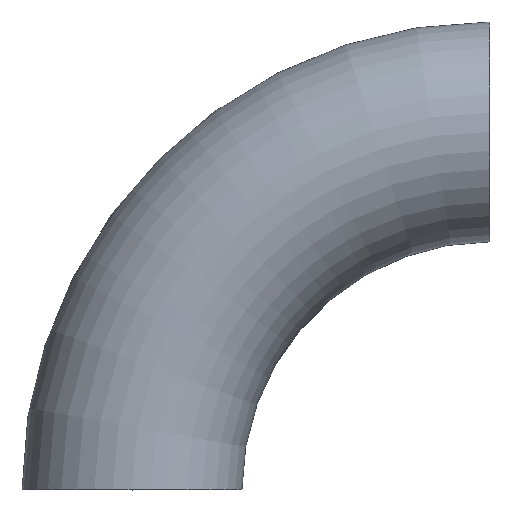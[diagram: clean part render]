
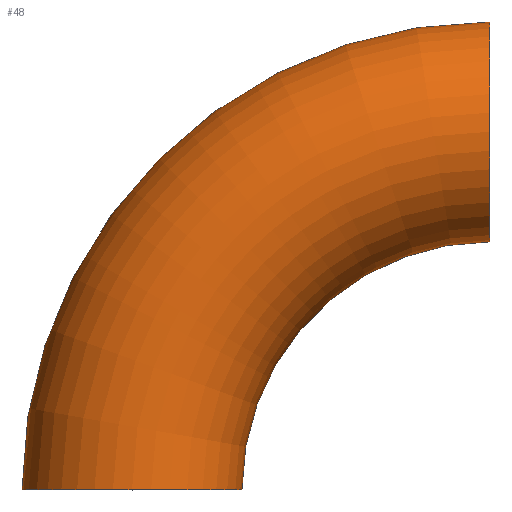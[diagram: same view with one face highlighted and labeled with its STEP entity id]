
A CAD part, top view. The second image highlights one B-rep face of the part: STEP entity #48.
In plain terms, the highlighted toroidal (fillet/blend) face has major radius 28 mm and minor radius 8.6 mm.
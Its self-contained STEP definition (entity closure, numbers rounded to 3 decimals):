
#17 = VERTEX_POINT ( 'NONE', #62 ) ;
#21 = DIRECTION ( 'NONE',  ( 1., 0., 0. ) ) ;
#23 = CARTESIAN_POINT ( 'NONE',  ( 28., 0., 0. ) ) ;
#29 = VERTEX_POINT ( 'NONE', #217 ) ;
#33 = DIRECTION ( 'NONE',  ( 1., 0., 0. ) ) ;
#44 = CIRCLE ( 'NONE', #143, 36.6 ) ;
#46 = ORIENTED_EDGE ( 'NONE', *, *, #100, .T. ) ;
#48 = ADVANCED_FACE ( 'NONE', ( #130 ), #225, .T. ) ;
#59 = AXIS2_PLACEMENT_3D ( 'NONE', #23, #85, #21 ) ;
#62 = CARTESIAN_POINT ( 'NONE',  ( 8.6, 0., 0. ) ) ;
#68 = CARTESIAN_POINT ( 'NONE',  ( 28., 28., 0. ) ) ;
#75 = CARTESIAN_POINT ( 'NONE',  ( 28., 19.4, 0. ) ) ;
#81 = ORIENTED_EDGE ( 'NONE', *, *, #139, .F. ) ;
#85 = DIRECTION ( 'NONE',  ( 0., 0., 1. ) ) ;
#86 = ORIENTED_EDGE ( 'NONE', *, *, #157, .F. ) ;
#98 = VERTEX_POINT ( 'NONE', #141 ) ;
#100 = EDGE_CURVE ( 'NONE', #29, #98, #44, .T. ) ;
#111 = CARTESIAN_POINT ( 'NONE',  ( 28., 0., 0. ) ) ;
#113 = ORIENTED_EDGE ( 'NONE', *, *, #223, .T. ) ;
#114 = AXIS2_PLACEMENT_3D ( 'NONE', #68, #33, #180 ) ;
#115 = CARTESIAN_POINT ( 'NONE',  ( 0., 0., 0. ) ) ;
#118 = DIRECTION ( 'NONE',  ( 0., 0., 1. ) ) ;
#130 = FACE_OUTER_BOUND ( 'NONE', #221, .T. ) ;
#133 = DIRECTION ( 'NONE',  ( 0., 0., 1. ) ) ;
#138 = DIRECTION ( 'NONE',  ( 0., 1., 0. ) ) ;
#139 = EDGE_CURVE ( 'NONE', #29, #242, #235, .T. ) ;
#141 = CARTESIAN_POINT ( 'NONE',  ( -8.6, 0., 0. ) ) ;
#142 = DIRECTION ( 'NONE',  ( 0., 0., 1. ) ) ;
#143 = AXIS2_PLACEMENT_3D ( 'NONE', #111, #133, #163 ) ;
#145 = CIRCLE ( 'NONE', #234, 8.6 ) ;
#157 = EDGE_CURVE ( 'NONE', #242, #17, #241, .T. ) ;
#163 = DIRECTION ( 'NONE',  ( 1., 0., 0. ) ) ;
#180 = DIRECTION ( 'NONE',  ( 0., 0., 1. ) ) ;
#198 = CARTESIAN_POINT ( 'NONE',  ( 28., 0., 0. ) ) ;
#199 = AXIS2_PLACEMENT_3D ( 'NONE', #198, #142, #222 ) ;
#217 = CARTESIAN_POINT ( 'NONE',  ( 28., 36.6, 0. ) ) ;
#221 = EDGE_LOOP ( 'NONE', ( #81, #46, #113, #86 ) ) ;
#222 = DIRECTION ( 'NONE',  ( 1., 0., 0. ) ) ;
#223 = EDGE_CURVE ( 'NONE', #98, #17, #145, .T. ) ;
#225 = TOROIDAL_SURFACE ( 'NONE', #59, 28., 8.6 ) ;
#234 = AXIS2_PLACEMENT_3D ( 'NONE', #115, #138, #118 ) ;
#235 = CIRCLE ( 'NONE', #114, 8.6 ) ;
#241 = CIRCLE ( 'NONE', #199, 19.4 ) ;
#242 = VERTEX_POINT ( 'NONE', #75 ) ;
